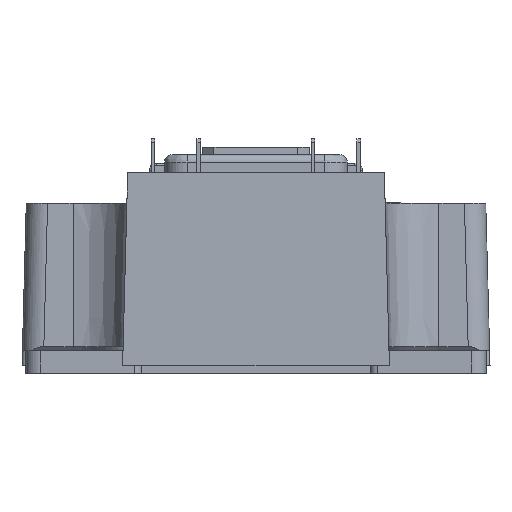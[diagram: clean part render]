
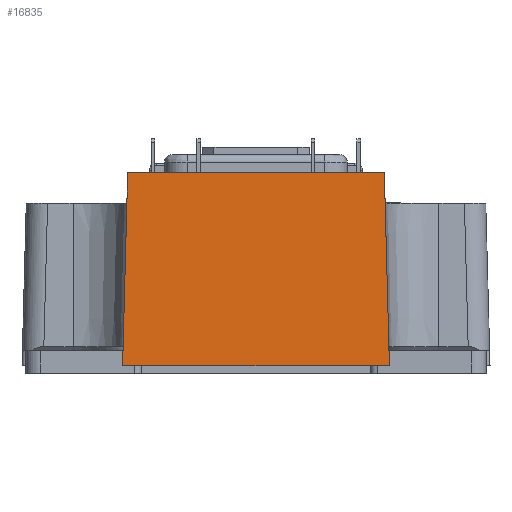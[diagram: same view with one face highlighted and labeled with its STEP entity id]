
A CAD part, front view. The second image highlights one B-rep face of the part: STEP entity #16835.
In plain terms, the highlighted planar face has unit normal (0, -1, 0.026).
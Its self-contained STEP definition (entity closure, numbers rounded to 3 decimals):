
#1625 = VERTEX_POINT ( 'NONE', #55513 ) ;
#1939 = LINE ( 'NONE', #19071, #56635 ) ;
#3207 = DIRECTION ( 'NONE',  ( 1., 0., 0. ) ) ;
#5376 = DIRECTION ( 'NONE',  ( 1., 0., 0. ) ) ;
#6680 = ORIENTED_EDGE ( 'NONE', *, *, #47204, .F. ) ;
#8347 = DIRECTION ( 'NONE',  ( 0.026, -0.026, -0.999 ) ) ;
#16502 = EDGE_CURVE ( 'NONE', #48601, #67516, #70868, .T. ) ;
#16607 = DIRECTION ( 'NONE',  ( 0., -1., 0.026 ) ) ;
#16835 = ADVANCED_FACE ( 'NONE', ( #30568 ), #17347, .T. ) ;
#17347 = PLANE ( 'NONE',  #52940 ) ;
#19071 = CARTESIAN_POINT ( 'NONE',  ( 47.057, -104.287, 23.3 ) ) ;
#24389 = EDGE_LOOP ( 'NONE', ( #56791, #26004, #61723, #6680 ) ) ;
#26004 = ORIENTED_EDGE ( 'NONE', *, *, #67730, .F. ) ;
#26304 = CARTESIAN_POINT ( 'NONE',  ( 47.72, -104.95, -2. ) ) ;
#26331 = VERTEX_POINT ( 'NONE', #41333 ) ;
#30568 = FACE_OUTER_BOUND ( 'NONE', #24389, .T. ) ;
#30668 = LINE ( 'NONE', #71186, #44360 ) ;
#33215 = EDGE_CURVE ( 'NONE', #1625, #26331, #30668, .T. ) ;
#34949 = DIRECTION ( 'NONE',  ( 0., -0.026, -1. ) ) ;
#35067 = CARTESIAN_POINT ( 'NONE',  ( 12.72, -104.95, -2. ) ) ;
#41333 = CARTESIAN_POINT ( 'NONE',  ( 47.057, -104.287, 23.3 ) ) ;
#44360 = VECTOR ( 'NONE', #5376, 1000. ) ;
#44989 = LINE ( 'NONE', #35067, #62363 ) ;
#47204 = EDGE_CURVE ( 'NONE', #48601, #1625, #44989, .T. ) ;
#48601 = VERTEX_POINT ( 'NONE', #55994 ) ;
#48917 = VECTOR ( 'NONE', #3207, 1000. ) ;
#52940 = AXIS2_PLACEMENT_3D ( 'NONE', #74744, #16607, #34949 ) ;
#55513 = CARTESIAN_POINT ( 'NONE',  ( 13.383, -104.287, 23.3 ) ) ;
#55994 = CARTESIAN_POINT ( 'NONE',  ( 12.72, -104.95, -2. ) ) ;
#56635 = VECTOR ( 'NONE', #8347, 1000. ) ;
#56791 = ORIENTED_EDGE ( 'NONE', *, *, #16502, .T. ) ;
#61591 = CARTESIAN_POINT ( 'NONE',  ( 12.72, -104.95, -2. ) ) ;
#61723 = ORIENTED_EDGE ( 'NONE', *, *, #33215, .F. ) ;
#62363 = VECTOR ( 'NONE', #73529, 1000. ) ;
#67516 = VERTEX_POINT ( 'NONE', #26304 ) ;
#67730 = EDGE_CURVE ( 'NONE', #26331, #67516, #1939, .T. ) ;
#70868 = LINE ( 'NONE', #61591, #48917 ) ;
#71186 = CARTESIAN_POINT ( 'NONE',  ( 13.383, -104.287, 23.3 ) ) ;
#73529 = DIRECTION ( 'NONE',  ( 0.026, 0.026, 0.999 ) ) ;
#74744 = CARTESIAN_POINT ( 'NONE',  ( 12.51, -104.287, 23.3 ) ) ;
